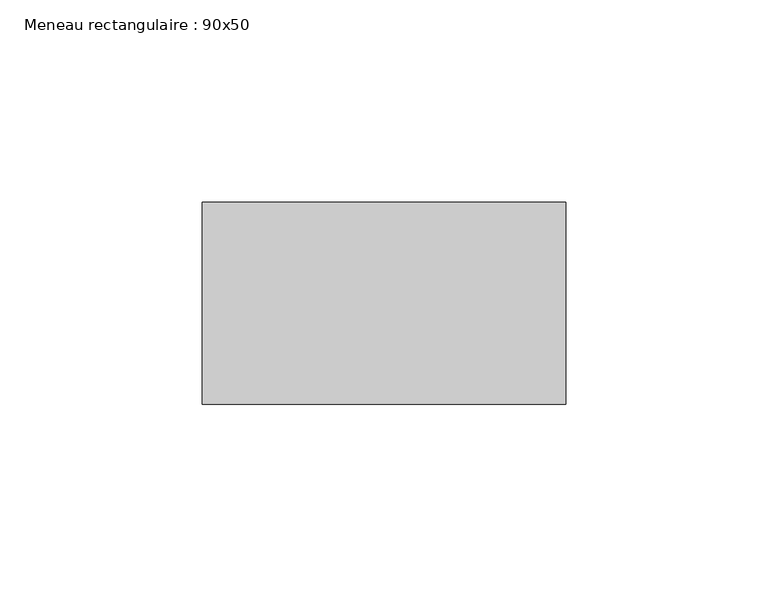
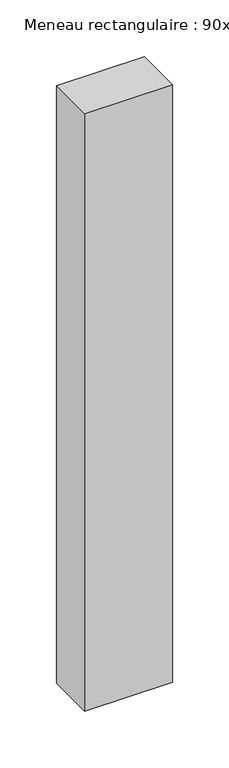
"""IFC4 building model written with IfcOpenShell, lengths in millimetres: member geometry, Meneau rectangulaire : 90x50."""

from ifc_helpers import new_model, si_unit, frame, origin, place, context, project, spatial, polyline, outline, extrude, source, transform, mapped, element, save


def meneau_rectangulaire_90x50_cf918885(model_context):
    return source(origin(), model_context, "Body", "SweptSolid", [
        extrude(outline(polyline([(0.0, 0.0), (0.0, -50.0), (-90.0, -50.0), (-90.0, 0.0), (0.0, 0.0)])), frame((0.0, 0.0, -645.5709235), z_axis=(0.0, 0.0, 1.0), x_axis=(1.0, 0.0, 0.0)), (0.0, 0.0, 1.0), 645.5709235),
    ])


if __name__ == "__main__":
    model = new_model("IFC4")
    model_context = context("Model", 3, world=origin())
    ifc_project = project(units=[si_unit("LENGTHUNIT", "METRE", prefix="MILLI")], contexts=[model_context])
    site = spatial("IfcSite", under=ifc_project)
    building = spatial("IfcBuilding", under=site)
    placement = place(None, origin())
    meneau_rectangulaire_90x50_shape = meneau_rectangulaire_90x50_cf918885(model_context)
    element("IfcMember", 1, ObjectType="Meneau rectangulaire : 90x50", at=placement, inside=building, context=model_context, shape_type="MappedRepresentation", body=[
        mapped(meneau_rectangulaire_90x50_shape, transform((0.0, 0.0, 0.0), x_axis=(1.0, 0.0, 0.0), y_axis=(0.0, 1.0, 0.0), z_axis=(0.0, 0.0, 1.0))),
    ])
    save(model, "model.ifc")
